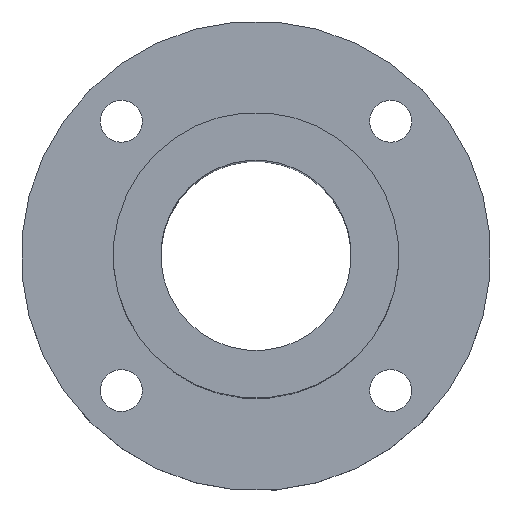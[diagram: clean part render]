
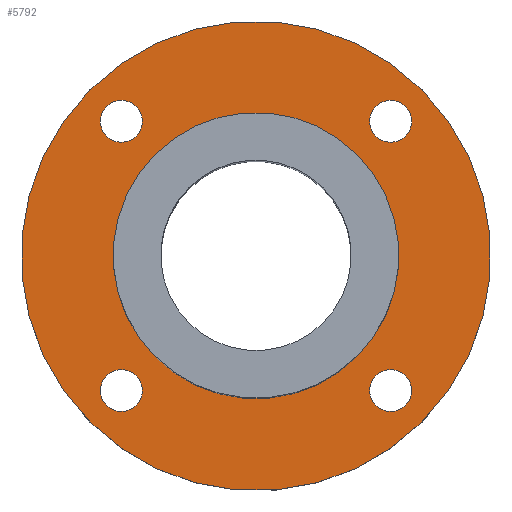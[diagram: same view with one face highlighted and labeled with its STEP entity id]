
A CAD part, top view. The second image highlights one B-rep face of the part: STEP entity #5792.
In plain terms, the highlighted planar face has unit normal (0, 0, 1).
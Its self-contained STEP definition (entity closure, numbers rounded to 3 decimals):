
#112=CIRCLE('',#6157,22.5);
#116=CIRCLE('',#6165,37.);
#117=CIRCLE('',#6167,3.3);
#118=CIRCLE('',#6168,3.3);
#119=CIRCLE('',#6169,3.3);
#120=CIRCLE('',#6170,3.3);
#526=ORIENTED_EDGE('',*,*,#2188,.F.);
#527=ORIENTED_EDGE('',*,*,#2189,.F.);
#528=ORIENTED_EDGE('',*,*,#2190,.F.);
#529=ORIENTED_EDGE('',*,*,#2191,.F.);
#530=ORIENTED_EDGE('',*,*,#2183,.T.);
#531=ORIENTED_EDGE('',*,*,#2187,.T.);
#2183=EDGE_CURVE('',#3017,#3017,#112,.F.);
#2187=EDGE_CURVE('',#3021,#3021,#116,.T.);
#2188=EDGE_CURVE('',#3022,#3022,#117,.T.);
#2189=EDGE_CURVE('',#3023,#3023,#118,.T.);
#2190=EDGE_CURVE('',#3024,#3024,#119,.T.);
#2191=EDGE_CURVE('',#3025,#3025,#120,.T.);
#3017=VERTEX_POINT('',#9161);
#3021=VERTEX_POINT('',#9173);
#3022=VERTEX_POINT('',#9176);
#3023=VERTEX_POINT('',#9178);
#3024=VERTEX_POINT('',#9180);
#3025=VERTEX_POINT('',#9182);
#4746=EDGE_LOOP('',(#526));
#4747=EDGE_LOOP('',(#527));
#4748=EDGE_LOOP('',(#528));
#4749=EDGE_LOOP('',(#529));
#4750=EDGE_LOOP('',(#530));
#4751=EDGE_LOOP('',(#531));
#5164=FACE_BOUND('',#4746,.T.);
#5165=FACE_BOUND('',#4747,.T.);
#5166=FACE_BOUND('',#4748,.T.);
#5167=FACE_BOUND('',#4749,.T.);
#5168=FACE_BOUND('',#4750,.T.);
#5169=FACE_BOUND('',#4751,.T.);
#5524=PLANE('',#6166);
#5792=ADVANCED_FACE('',(#5164,#5165,#5166,#5167,#5168,#5169),#5524,.T.);
#6157=AXIS2_PLACEMENT_3D('',#9160,#6692,#6693);
#6165=AXIS2_PLACEMENT_3D('',#9172,#6708,#6709);
#6166=AXIS2_PLACEMENT_3D('',#9174,#6710,#6711);
#6167=AXIS2_PLACEMENT_3D('',#9175,#6712,#6713);
#6168=AXIS2_PLACEMENT_3D('',#9177,#6714,#6715);
#6169=AXIS2_PLACEMENT_3D('',#9179,#6716,#6717);
#6170=AXIS2_PLACEMENT_3D('',#9181,#6718,#6719);
#6692=DIRECTION('',(0.,0.,1.));
#6693=DIRECTION('',(0.707,-0.707,0.));
#6708=DIRECTION('',(0.,0.,1.));
#6709=DIRECTION('',(0.707,-0.707,0.));
#6710=DIRECTION('',(0.,0.,1.));
#6711=DIRECTION('',(0.707,-0.707,0.));
#6712=DIRECTION('',(0.,0.,1.));
#6713=DIRECTION('',(0.707,-0.707,0.));
#6714=DIRECTION('',(0.,0.,1.));
#6715=DIRECTION('',(0.707,-0.707,0.));
#6716=DIRECTION('',(0.,0.,1.));
#6717=DIRECTION('',(0.707,-0.707,0.));
#6718=DIRECTION('',(0.,0.,1.));
#6719=DIRECTION('',(0.707,-0.707,0.));
#9160=CARTESIAN_POINT('',(0.,0.,0.));
#9161=CARTESIAN_POINT('',(15.91,-15.91,0.));
#9172=CARTESIAN_POINT('',(0.,0.,0.));
#9173=CARTESIAN_POINT('',(26.163,-26.163,0.));
#9174=CARTESIAN_POINT('',(0.,0.,0.));
#9175=CARTESIAN_POINT('',(21.213,21.213,0.));
#9176=CARTESIAN_POINT('',(23.547,18.88,0.));
#9177=CARTESIAN_POINT('',(-21.213,21.213,0.));
#9178=CARTESIAN_POINT('',(-18.88,18.88,0.));
#9179=CARTESIAN_POINT('',(-21.213,-21.213,0.));
#9180=CARTESIAN_POINT('',(-18.88,-23.547,0.));
#9181=CARTESIAN_POINT('',(21.213,-21.213,0.));
#9182=CARTESIAN_POINT('',(23.547,-23.547,0.));
